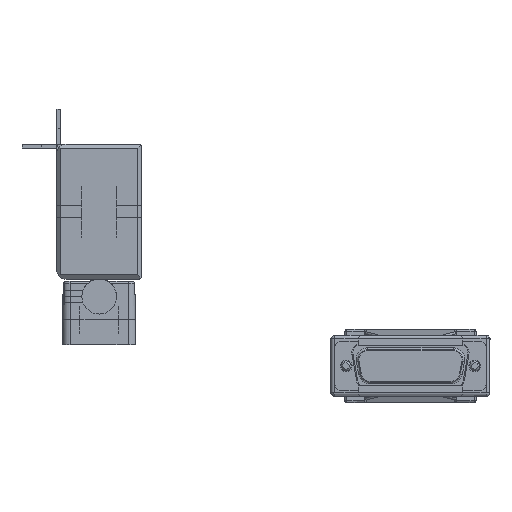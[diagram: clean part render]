
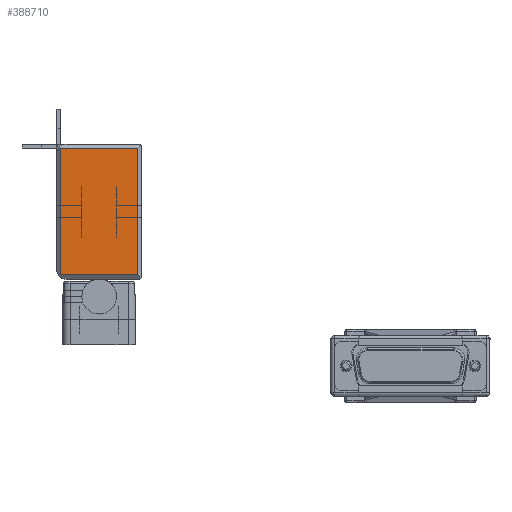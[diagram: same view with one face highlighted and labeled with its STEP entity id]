
A CAD part, left-side view. The second image highlights one B-rep face of the part: STEP entity #388710.
In plain terms, the highlighted planar face has unit normal (-1, 0, 0).
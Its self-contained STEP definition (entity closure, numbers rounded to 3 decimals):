
#334580=CARTESIAN_POINT('',(-453.,-504.096,
1071.032));
#334590=VERTEX_POINT('',#334580);
#334620=CARTESIAN_POINT('',(-453.,-547.292,
1071.032));
#334630=DIRECTION('',(0.,-1.,0.));
#334640=VECTOR('',#334630,1.);
#334650=LINE('',#334620,#334640);
#334660=CARTESIAN_POINT('',(-453.,-471.346,
1071.032));
#334670=VERTEX_POINT('',#334660);
#334680=EDGE_CURVE('',#334670,#334590,#334650,.T.);
#370210=CARTESIAN_POINT('',(-453.,-504.096,
1050.032));
#370220=DIRECTION('',(0.,0.,-1.));
#370230=VECTOR('',#370220,1.);
#370240=LINE('',#370210,#370230);
#370250=CARTESIAN_POINT('',(-453.,-504.096,
1051.032));
#370260=VERTEX_POINT('',#370250);
#370270=EDGE_CURVE('',#334590,#370260,#370240,.T.);
#372890=CARTESIAN_POINT('',(-453.,-471.346,
1050.032));
#372900=DIRECTION('',(0.,0.,1.));
#372910=VECTOR('',#372900,1.);
#372920=LINE('',#372890,#372910);
#372930=CARTESIAN_POINT('',(-453.,-471.346,
1051.032));
#372940=VERTEX_POINT('',#372930);
#372950=EDGE_CURVE('',#372940,#334670,#372920,.T.);
#388010=CARTESIAN_POINT('',(-453.,-547.292,
1051.032));
#388020=DIRECTION('',(0.,1.,0.));
#388030=VECTOR('',#388020,1.);
#388040=LINE('',#388010,#388030);
#388050=EDGE_CURVE('',#370260,#372940,#388040,.T.);
#388600=CARTESIAN_POINT('',(-453.,-505.096,
1050.032));
#388610=DIRECTION('',(-1.,0.,0.));
#388620=DIRECTION('',(0.,1.,0.));
#388630=AXIS2_PLACEMENT_3D('',#388600,#388610,#388620);
#388640=PLANE('',#388630);
#388650=ORIENTED_EDGE('',*,*,#372950,.F.);
#388660=ORIENTED_EDGE('',*,*,#334680,.F.);
#388670=ORIENTED_EDGE('',*,*,#370270,.F.);
#388680=ORIENTED_EDGE('',*,*,#388050,.F.);
#388690=EDGE_LOOP('',(#388680,#388670,#388660,#388650));
#388700=FACE_OUTER_BOUND('',#388690,.T.);
#388710=ADVANCED_FACE('',(#388700),#388640,.T.);
